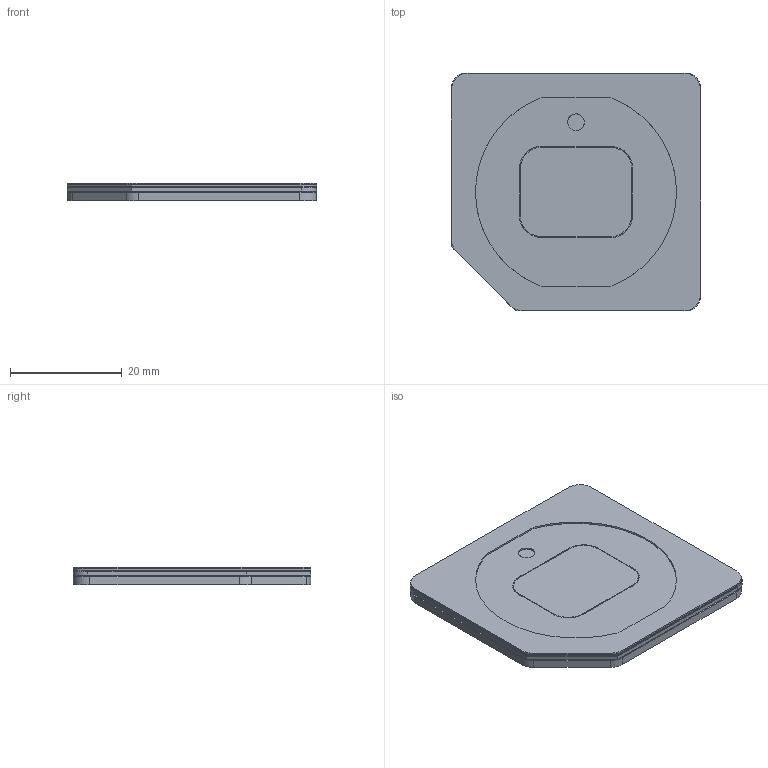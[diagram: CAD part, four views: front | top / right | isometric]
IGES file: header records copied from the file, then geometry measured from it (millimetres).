
Global section: file name: 153-13557_LPF VXX S1 (VISOR 2 Polfilter 100%); native system: Autodesk Inventor 2018; preprocessor: unknown; author: ss; date: 20190129.100741; units: millimetre
Bounding box: 44.6 x 42.6 x 3.12 mm (x, y, z)
Volume: 3880.4 mm3; surface area: 4491.2 mm2
Topology: 1 solids, 1 shells, 102 faces, 252 edges, 158 vertices
Faces by surface type: bspline 102
